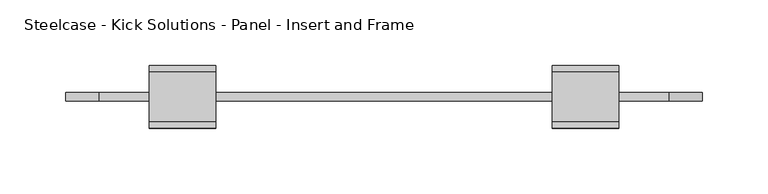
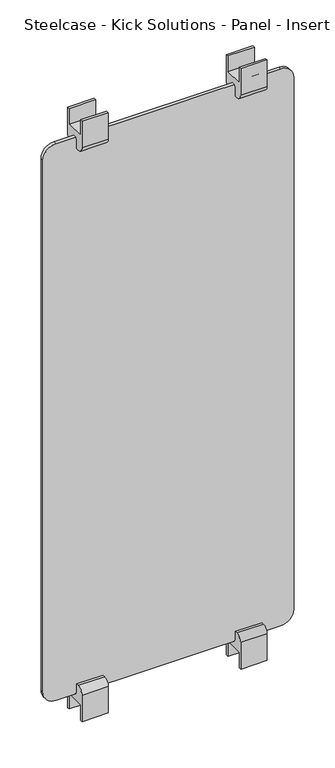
"""IFC4 building model written with IfcOpenShell, lengths in millimetres: furniture geometry, Steelcase - Kick Solutions - Panel - Insert and Frame : Laminate - 54H x 24W."""

from ifc_helpers import new_model, si_unit, point, frame, frame_2d, origin, place, context, project, spatial, polyline, circle_curve, trimmed, segment, composite_curve, outline, extrude, source, transform, mapped, element, save


def steelcase_kick_solutions_panel_insert_and_frame_6a388396(model_context):
    return source(origin(), model_context, "Body", "SweptSolid", [
        extrude(outline(composite_curve([segment(polyline([(5.3821989, 1346.2), (10.144699, 1346.2), (10.144699, 1291.513221)]), True, "CONTINUOUS"), segment(trimmed(circle_curve(frame_2d((-1.6831687, 1291.513221)), 11.8278677), [point((10.144699, 1291.513221))], [point((-1.6831687, 1279.6853533))], False, "CARTESIAN"), True, "CONTINUOUS"), segment(polyline([(-1.6831687, 1279.6853533), (-7.3178012, 1279.6853533), (-7.3178012, 1295.0857521)]), True, "CONTINUOUS"), segment(trimmed(circle_curve(frame_2d((-13.667801, 1295.0857521)), 6.3499998), [point((-7.3178012, 1295.0857521))], [point((-20.0178007, 1295.0857521))], True, "CARTESIAN"), True, "CONTINUOUS"), segment(polyline([(-20.0178007, 1295.0857521), (-20.0178007, 1279.6853527), (-25.2074988, 1279.6853527)]), True, "CONTINUOUS"), segment(trimmed(circle_curve(frame_2d((-25.2074988, 1291.9581549)), 12.2728022), [point((-25.2074988, 1279.6853527))], [point((-37.480301, 1291.9581549))], False, "CARTESIAN"), True, "CONTINUOUS"), segment(polyline([(-37.480301, 1291.9581549), (-37.480301, 1346.2), (-32.7177988, 1346.2), (-32.7177988, 1314.4499758), (5.3821989, 1314.4499758), (5.3821989, 1346.2)]), True, "CONTINUOUS")], self_intersect=False)), frame((432.7148583, 0.0, 0.0), z_axis=(1.0, 0.0, 0.0), x_axis=(0.0, 1.0, 0.0)), (0.0, 0.0, 1.0), 50.8),
        extrude(outline(composite_curve([segment(polyline([(5.3821989, 120.6499576), (5.3821989, 152.3999815), (-32.7177988, 152.3999815), (-32.7177988, 120.6499576), (-37.480301, 120.6499576), (-37.480301, 174.8918024)]), True, "CONTINUOUS"), segment(trimmed(circle_curve(frame_2d((-25.2074988, 174.8918024)), 12.2728022), [point((-37.480301, 174.8918024))], [point((-25.2074988, 187.1646046))], False, "CARTESIAN"), True, "CONTINUOUS"), segment(polyline([(-25.2074988, 187.1646046), (-20.0178007, 187.1646046), (-20.0178007, 171.7642058)]), True, "CONTINUOUS"), segment(trimmed(circle_curve(frame_2d((-13.667801, 171.7642058)), 6.3499998), [point((-20.0178007, 171.7642058))], [point((-7.3178012, 171.7642058))], True, "CARTESIAN"), True, "CONTINUOUS"), segment(polyline([(-7.3178012, 171.7642058), (-7.3178012, 187.1646046), (-1.6831687, 187.1646046)]), True, "CONTINUOUS"), segment(trimmed(circle_curve(frame_2d((-1.6831687, 175.3367369)), 11.8278677), [point((-1.6831687, 187.1646046))], [point((10.144699, 175.3367369))], False, "CARTESIAN"), True, "CONTINUOUS"), segment(polyline([(10.144699, 175.3367369), (10.144699, 120.6499576), (5.3821989, 120.6499576)]), True, "CONTINUOUS")], self_intersect=False)), frame((432.7148583, 0.0, 0.0), z_axis=(1.0, 0.0, 0.0), x_axis=(0.0, 1.0, 0.0)), (0.0, 0.0, 1.0), 50.8),
        extrude(outline(composite_curve([segment(polyline([(5.3821989, 1346.2), (10.144699, 1346.2), (10.144699, 1291.5132204)]), True, "CONTINUOUS"), segment(trimmed(circle_curve(frame_2d((-1.6831684, 1291.5132204)), 11.8278674), [point((10.144699, 1291.5132204))], [point((-1.6831684, 1279.685353))], False, "CARTESIAN"), True, "CONTINUOUS"), segment(polyline([(-1.6831684, 1279.685353), (-7.3178009, 1279.685353), (-7.3178009, 1295.0857521)]), True, "CONTINUOUS"), segment(trimmed(circle_curve(frame_2d((-13.667801, 1295.0857521)), 6.3500001), [point((-7.3178009, 1295.0857521))], [point((-20.017801, 1295.0857521))], True, "CARTESIAN"), True, "CONTINUOUS"), segment(polyline([(-20.017801, 1295.0857521), (-20.017801, 1279.685353), (-25.2074991, 1279.685353)]), True, "CONTINUOUS"), segment(trimmed(circle_curve(frame_2d((-25.2074991, 1291.9581549)), 12.2728019), [point((-25.2074991, 1279.685353))], [point((-37.480301, 1291.9581549))], False, "CARTESIAN"), True, "CONTINUOUS"), segment(polyline([(-37.480301, 1291.9581549), (-37.480301, 1346.2), (-32.7177988, 1346.2), (-32.7177988, 1314.4499758), (5.3821989, 1314.4499758), (5.3821989, 1346.2)]), True, "CONTINUOUS")], self_intersect=False)), frame((126.0851417, 0.0, 0.0), z_axis=(1.0, 0.0, 0.0), x_axis=(0.0, 1.0, 0.0)), (0.0, 0.0, 1.0), 50.8),
        extrude(outline(composite_curve([segment(polyline([(5.3821989, 120.6499576), (5.3821989, 152.3999818), (-32.7177988, 152.3999818), (-32.7177988, 120.6499576), (-37.480301, 120.6499576), (-37.480301, 174.8918027)]), True, "CONTINUOUS"), segment(trimmed(circle_curve(frame_2d((-25.2074991, 174.8918027)), 12.2728019), [point((-37.480301, 174.8918027))], [point((-25.2074991, 187.1646046))], False, "CARTESIAN"), True, "CONTINUOUS"), segment(polyline([(-25.2074991, 187.1646046), (-20.017801, 187.1646046), (-20.017801, 171.7642055)]), True, "CONTINUOUS"), segment(trimmed(circle_curve(frame_2d((-13.667801, 171.7642055)), 6.3500001), [point((-20.017801, 171.7642055))], [point((-7.3178009, 171.7642055))], True, "CARTESIAN"), True, "CONTINUOUS"), segment(polyline([(-7.3178009, 171.7642055), (-7.3178009, 187.1646041), (-1.6831684, 187.1646041)]), True, "CONTINUOUS"), segment(trimmed(circle_curve(frame_2d((-1.6831684, 175.3367366)), 11.8278674), [point((-1.6831684, 187.1646041))], [point((10.144699, 175.3367366))], False, "CARTESIAN"), True, "CONTINUOUS"), segment(polyline([(10.144699, 175.3367366), (10.144699, 120.6499576), (5.3821989, 120.6499576)]), True, "CONTINUOUS")], self_intersect=False)), frame((126.0851417, 0.0, 0.0), z_axis=(1.0, 0.0, 0.0), x_axis=(0.0, 1.0, 0.0)), (0.0, 0.0, 1.0), 50.8),
        extrude(outline(composite_curve([segment(polyline([(1301.7499516, 521.6148583), (1301.7499516, 87.9851417)]), True, "CONTINUOUS"), segment(trimmed(circle_curve(frame_2d((1276.3499516, 87.9851417)), 25.4), [point((1301.7499516, 87.9851417))], [point((1276.3499516, 62.5851417))], False, "CARTESIAN"), True, "CONTINUOUS"), segment(polyline([(1276.3499516, 62.5851417), (190.5000061, 62.5851417)]), True, "CONTINUOUS"), segment(trimmed(circle_curve(frame_2d((190.5000061, 87.9851417)), 25.4), [point((190.5000061, 62.5851417))], [point((165.1000061, 87.9851417))], False, "CARTESIAN"), True, "CONTINUOUS"), segment(polyline([(165.1000061, 87.9851417), (165.1000061, 521.6148583)]), True, "CONTINUOUS"), segment(trimmed(circle_curve(frame_2d((190.5000061, 521.6148583)), 25.4), [point((165.1000061, 521.6148583))], [point((190.5000061, 547.0148583))], False, "CARTESIAN"), True, "CONTINUOUS"), segment(polyline([(190.5000061, 547.0148583), (1276.3499516, 547.0148583)]), True, "CONTINUOUS"), segment(trimmed(circle_curve(frame_2d((1276.3499516, 521.6148583)), 25.4), [point((1276.3499516, 547.0148583))], [point((1301.7499516, 521.6148583))], False, "CARTESIAN"), True, "CONTINUOUS")], self_intersect=False)), frame((0.0, -16.8428004, 0.0), z_axis=(0.0, 1.0, 0.0), x_axis=(0.0, 0.0, 1.0)), (0.0, 0.0, 1.0), 6.3499985),
    ])


if __name__ == "__main__":
    model = new_model("IFC4")
    model_context = context("Model", 3, world=origin())
    ifc_project = project(units=[si_unit("LENGTHUNIT", "METRE", prefix="MILLI")], contexts=[model_context])
    site = spatial("IfcSite", under=ifc_project)
    building = spatial("IfcBuilding", under=site)
    placement = place(None, origin())
    steelcase_kick_solutions_panel_insert_and_frame_shape = steelcase_kick_solutions_panel_insert_and_frame_6a388396(model_context)
    element("IfcFurniture", 1, ObjectType="Steelcase - Kick Solutions - Panel - Insert and Frame : Laminate - 54H x 24W", at=placement, inside=building, context=model_context, shape_type="MappedRepresentation", body=[
        mapped(steelcase_kick_solutions_panel_insert_and_frame_shape, transform((0.0, 0.0, 0.0), x_axis=(1.0, 0.0, 0.0), y_axis=(0.0, 1.0, 0.0), z_axis=(0.0, 0.0, 1.0))),
    ])
    save(model, "model.ifc")
